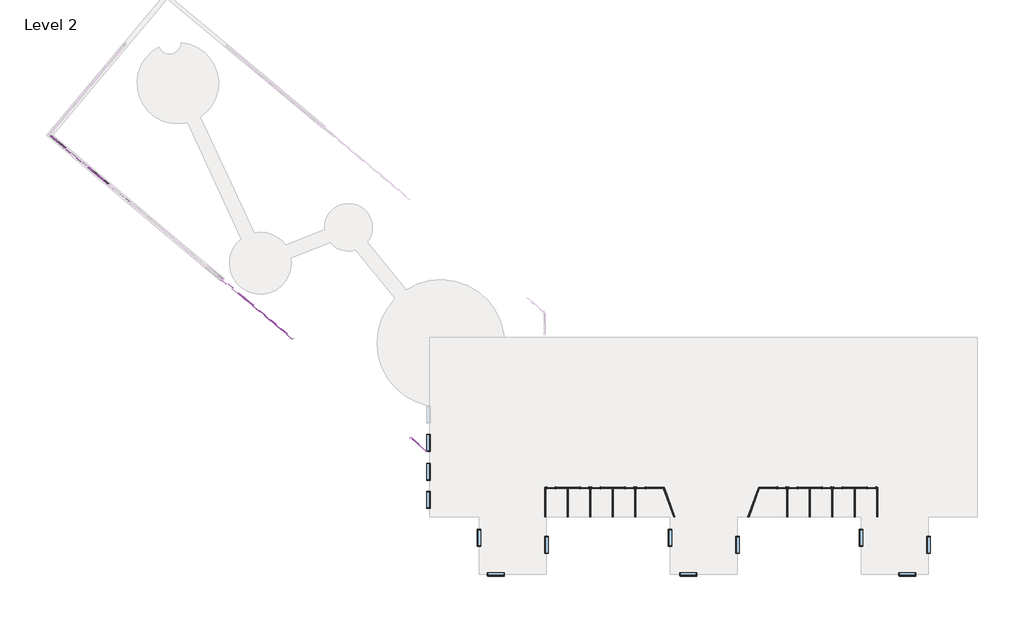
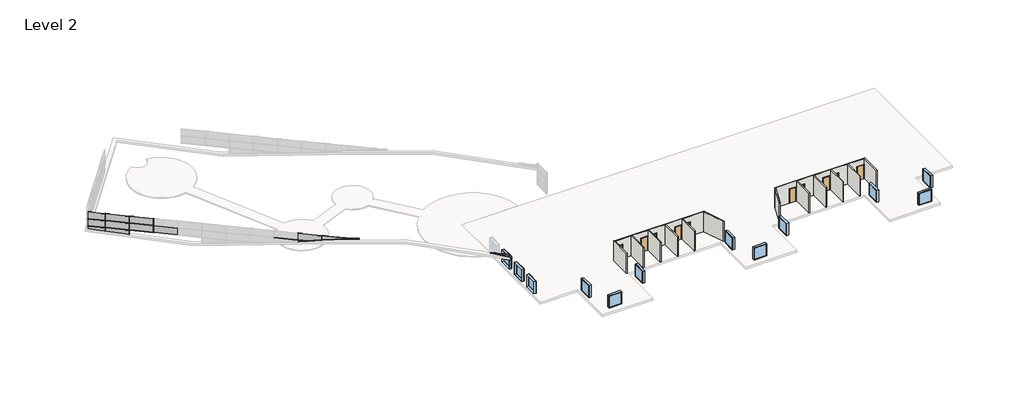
# One storey, part 1 of 4: 23 members, 14 plates, 14 walls, 12 windows, 10 doors.
"""IFC4 building model written with IfcOpenShell, lengths in millimetres."""

from ifc_helpers import new_model, si_unit, frame, origin, place, context, project, spatial, polyline, outline, extrude, faceted_brep, transform, mapped, element, save
from components import door_a1797ceb, door_a3eb833a, member_e6b937b8, member_3e6eb2ff, member_5ef1489a, member_b94ccd9f, member_68f25307, member_2b5b1d27, member_eaba9652, member_8e78e238, member_047e79c2, member_c98aac82, member_66bcd2d2, member_78a116ff, member_fc36493b, member_e5b014c7, member_6226d3c8, member_bbbeaff8, system_panel_glazed_a2c5a472, system_panel_glazed_ccf48815, system_panel_glazed_66757764, system_panel_glazed_3ad8292d, system_panel_glazed_91957de0, system_panel_glazed_6fbe35d1, system_panel_glazed_d7fb52fa, system_panel_glazed_6cc4185f, system_panel_glazed_b09d7682, fixed_6_x_6_52427b03

model = new_model("IFC4")

# Units and contexts
model_context = context("Model", 3, world=origin())
ifc_project = project(units=[si_unit("LENGTHUNIT", "METRE", prefix="MILLI")], contexts=[model_context])

# Site, building, storey
site = spatial("IfcSite", under=ifc_project)
building = spatial("IfcBuilding", under=site)
storey = spatial("IfcBuildingStorey", under=building, Name="Level 2", Elevation=3048.0)

# Doors
placement = place(None, origin())
door_shape = door_a1797ceb(model_context)
element("IfcDoor", 1, ObjectType="Single-Flush : 36\" x 84\"", at=placement, inside=storey, context=model_context, shape_type="MappedRepresentation", body=[
    mapped(door_shape, transform((5098.7613427, -5953.3379393, 3048.0), x_axis=(-1.0, 0.0, 0.0), y_axis=(0.0, -1.0, 0.0), z_axis=(0.0, 0.0, 1.0))),
])
element("IfcDoor", 2, ObjectType="Single-Flush : 36\" x 84\"", at=placement, inside=storey, context=model_context, shape_type="MappedRepresentation", body=[
    mapped(door_shape, transform((221.9613427, -5953.3379393, 3048.0), x_axis=(-1.0, 0.0, 0.0), y_axis=(0.0, -1.0, 0.0), z_axis=(0.0, 0.0, 1.0))),
])
element("IfcDoor", 3, ObjectType="Single-Flush : 36\" x 84\"", at=placement, inside=storey, context=model_context, shape_type="MappedRepresentation", body=[
    mapped(door_shape, transform((-4654.8386573, -5953.3379393, 3048.0), x_axis=(-1.0, 0.0, 0.0), y_axis=(0.0, -1.0, 0.0), z_axis=(0.0, 0.0, 1.0))),
])
element("IfcDoor", 4, ObjectType="Single-Flush : 36\" x 84\"", at=placement, inside=storey, context=model_context, shape_type="MappedRepresentation", body=[
    mapped(door_shape, transform((21607.1738427, -5953.3379393, 3048.0), x_axis=(-1.0, 0.0, 0.0), y_axis=(0.0, -1.0, 0.0), z_axis=(0.0, 0.0, 1.0))),
])
element("IfcDoor", 5, ObjectType="Single-Flush : 36\" x 84\"", at=placement, inside=storey, context=model_context, shape_type="MappedRepresentation", body=[
    mapped(door_shape, transform((26483.9738427, -5953.3379393, 3048.0), x_axis=(-1.0, 0.0, 0.0), y_axis=(0.0, -1.0, 0.0), z_axis=(0.0, 0.0, 1.0))),
])
door_2_shape = door_a3eb833a(model_context)
element("IfcDoor", 6, ObjectType="Single-Flush : 36\" x 84\"", at=placement, inside=storey, context=model_context, shape_type="MappedRepresentation", body=[
    mapped(door_2_shape, transform((3879.5613427, -5953.3379393, 3048.0), x_axis=(1.0, 0.0, 0.0), y_axis=(0.0, 1.0, 0.0), z_axis=(0.0, 0.0, 1.0))),
])
element("IfcDoor", 7, ObjectType="Single-Flush : 36\" x 84\"", at=placement, inside=storey, context=model_context, shape_type="MappedRepresentation", body=[
    mapped(door_2_shape, transform((-997.2386573, -5953.3379393, 3048.0), x_axis=(1.0, 0.0, 0.0), y_axis=(0.0, 1.0, 0.0), z_axis=(0.0, 0.0, 1.0))),
])
element("IfcDoor", 8, ObjectType="Single-Flush : 36\" x 84\"", at=placement, inside=storey, context=model_context, shape_type="MappedRepresentation", body=[
    mapped(door_2_shape, transform((20387.9738427, -5953.3379393, 3048.0), x_axis=(1.0, 0.0, 0.0), y_axis=(0.0, 1.0, 0.0), z_axis=(0.0, 0.0, 1.0))),
])
element("IfcDoor", 9, ObjectType="Single-Flush : 36\" x 84\"", at=placement, inside=storey, context=model_context, shape_type="MappedRepresentation", body=[
    mapped(door_2_shape, transform((25264.7738427, -5953.3379393, 3048.0), x_axis=(1.0, 0.0, 0.0), y_axis=(0.0, 1.0, 0.0), z_axis=(0.0, 0.0, 1.0))),
])
element("IfcDoor", 10, ObjectType="Single-Flush : 36\" x 84\"", at=placement, inside=storey, context=model_context, shape_type="MappedRepresentation", body=[
    mapped(door_2_shape, transform((30141.5738427, -5953.3379393, 3048.0), x_axis=(1.0, 0.0, 0.0), y_axis=(0.0, 1.0, 0.0), z_axis=(0.0, 0.0, 1.0))),
])

# Members
member_shape = member_e6b937b8(model_context)
element("IfcMember", 11, ObjectType="Rectangular Mullion : 1.5\" x 2.5\" rectangular", at=placement, inside=storey, context=model_context, shape_type="MappedRepresentation", body=[
    mapped(member_shape, transform((-38615.91172, 15222.4033343, 6133.5444177), x_axis=(-0.76604444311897, 0.6427876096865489, 0.0), y_axis=(-0.6427876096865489, -0.76604444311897, 0.0), z_axis=(0.0, 0.0, 1.0))),
])
element("IfcMember", 12, ObjectType="Rectangular Mullion : 1.5\" x 2.5\" rectangular", at=placement, inside=storey, context=model_context, shape_type="MappedRepresentation", body=[
    mapped(member_shape, transform((-52625.3324958, 26977.7031403, 5066.7444177), x_axis=(-0.76604444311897, 0.6427876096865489, 0.0), y_axis=(-0.6427876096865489, -0.76604444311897, 0.0), z_axis=(0.0, 0.0, 1.0))),
])
element("IfcMember", 13, ObjectType="Rectangular Mullion : 1.5\" x 2.5\" rectangular", at=placement, inside=storey, context=model_context, shape_type="MappedRepresentation", body=[
    mapped(member_shape, transform((-57295.139421, 30896.1364089, 5066.7444177), x_axis=(-0.76604444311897, 0.6427876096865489, 0.0), y_axis=(-0.6427876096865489, -0.76604444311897, 0.0), z_axis=(0.0, 0.0, 1.0))),
])
element("IfcMember", 14, ObjectType="Rectangular Mullion : 1.5\" x 2.5\" rectangular", at=placement, inside=storey, context=model_context, shape_type="MappedRepresentation", body=[
    mapped(member_shape, transform((-52625.3324958, 26977.7031403, 6133.5444177), x_axis=(-0.76604444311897, 0.6427876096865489, 0.0), y_axis=(-0.6427876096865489, -0.76604444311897, 0.0), z_axis=(0.0, 0.0, 1.0))),
])
element("IfcMember", 15, ObjectType="Rectangular Mullion : 1.5\" x 2.5\" rectangular", at=placement, inside=storey, context=model_context, shape_type="MappedRepresentation", body=[
    mapped(member_shape, transform((-57295.139421, 30896.1364089, 6133.5444177), x_axis=(-0.76604444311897, 0.6427876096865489, 0.0), y_axis=(-0.6427876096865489, -0.76604444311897, 0.0), z_axis=(0.0, 0.0, 1.0))),
])
member_2_shape = member_3e6eb2ff(model_context)
element("IfcMember", 16, ObjectType="Rectangular Mullion : 1.5\" x 2.5\" rectangular", at=placement, inside=storey, context=model_context, shape_type="MappedRepresentation", body=[
    mapped(member_2_shape, transform((-38615.91172, 15222.4033343, 5066.7444177), x_axis=(-0.76604444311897, 0.6427876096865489, 0.0), y_axis=(-0.6427876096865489, -0.76604444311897, 0.0), z_axis=(0.0, 0.0, 1.0))),
])
member_3_shape = member_5ef1489a(model_context)
element("IfcMember", 17, ObjectType="Rectangular Mullion : 1.5\" x 2.5\" rectangular", at=placement, inside=storey, context=model_context, shape_type="MappedRepresentation", body=[
    mapped(member_3_shape, transform((-33946.1047947, 11303.9700657, 6133.5444177), x_axis=(-0.76604444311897, 0.6427876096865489, 0.0), y_axis=(-0.6427876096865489, -0.76604444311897, 0.0), z_axis=(0.0, 0.0, 1.0))),
])
member_4_shape = member_b94ccd9f(model_context)
element("IfcMember", 18, ObjectType="Rectangular Mullion : 1.5\" x 2.5\" rectangular", at=placement, inside=storey, context=model_context, shape_type="MappedRepresentation", body=[
    mapped(member_4_shape, transform((-36281.0082574, 13263.1867, 6133.5444177), x_axis=(-0.76604444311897, 0.6427876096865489, 0.0), y_axis=(-0.6427876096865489, -0.76604444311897, 0.0), z_axis=(0.0, 0.0, 1.0))),
])
member_5_shape = member_68f25307(model_context)
element("IfcMember", 19, ObjectType="Rectangular Mullion : 1.5\" x 2.5\" rectangular", at=placement, inside=storey, context=model_context, shape_type="MappedRepresentation", body=[
    mapped(member_5_shape, transform((-57295.139421, 30896.1364089, 3999.9444177), x_axis=(-0.76604444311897, 0.6427876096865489, 0.0), y_axis=(-0.6427876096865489, -0.76604444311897, 0.0), z_axis=(0.0, 0.0, 1.0))),
])
member_6_shape = member_2b5b1d27(model_context)
element("IfcMember", 20, ObjectType="Rectangular Mullion : 1.5\" x 2.5\" rectangular", at=placement, inside=storey, context=model_context, shape_type="MappedRepresentation", body=[
    mapped(member_6_shape, transform((-18129.5386573, -1967.7047467, 5772.8755681), x_axis=(0.76604444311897, -0.6427876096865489, 0.0), y_axis=(-0.6427876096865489, -0.76604444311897, 0.0), z_axis=(0.0, 0.0, -1.0))),
])
member_7_shape = member_eaba9652(model_context)
element("IfcMember", 21, ObjectType="Rectangular Mullion : 2.5\" x 5\" rectangular", at=placement, inside=storey, context=model_context, shape_type="MappedRepresentation", body=[
    mapped(member_7_shape, transform((-38615.91172, 15222.4033343, 5098.4944177), x_axis=(0.0, 0.0, 1.0), y_axis=(-0.6427876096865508, -0.7660444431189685, 0.0), z_axis=(0.7660444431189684, -0.6427876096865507, 0.0))),
])
element("IfcMember", 22, ObjectType="Rectangular Mullion : 2.5\" x 5\" rectangular", at=placement, inside=storey, context=model_context, shape_type="MappedRepresentation", body=[
    mapped(member_7_shape, transform((-52625.3324958, 26977.7031403, 4031.6944177), x_axis=(0.0, 0.0, 1.0), y_axis=(-0.6427876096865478, -0.766044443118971, 0.0), z_axis=(0.766044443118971, -0.6427876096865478, 0.0))),
])
element("IfcMember", 23, ObjectType="Rectangular Mullion : 2.5\" x 5\" rectangular", at=placement, inside=storey, context=model_context, shape_type="MappedRepresentation", body=[
    mapped(member_7_shape, transform((-52625.3324958, 26977.7031403, 5098.4944177), x_axis=(0.0, 0.0, 1.0), y_axis=(-0.6427876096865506, -0.7660444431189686, 0.0), z_axis=(0.7660444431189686, -0.6427876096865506, 0.0))),
])
member_8_shape = member_8e78e238(model_context)
element("IfcMember", 24, ObjectType="Rectangular Mullion : 2.5\" x 5\" rectangular", at=placement, inside=storey, context=model_context, shape_type="MappedRepresentation", body=[
    mapped(member_8_shape, transform((-57295.139421, 30896.1364089, 4031.6944177), x_axis=(0.0, 0.0, 1.0), y_axis=(-0.6427876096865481, -0.7660444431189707, 0.0), z_axis=(0.7660444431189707, -0.6427876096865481, 0.0))),
])
element("IfcMember", 25, ObjectType="Rectangular Mullion : 2.5\" x 5\" rectangular", at=placement, inside=storey, context=model_context, shape_type="MappedRepresentation", body=[
    mapped(member_8_shape, transform((-57295.139421, 30896.1364089, 5098.4944177), x_axis=(0.0, 0.0, 1.0), y_axis=(-0.6427876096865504, -0.7660444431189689, 0.0), z_axis=(0.7660444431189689, -0.6427876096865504, 0.0))),
])
member_9_shape = member_047e79c2(model_context)
element("IfcMember", 26, ObjectType="Rectangular Mullion : 2.5\" x 5\" rectangular", at=placement, inside=storey, context=model_context, shape_type="MappedRepresentation", body=[
    mapped(member_9_shape, transform((-37671.407373, 14429.8700852, 5098.4944177), x_axis=(0.0, 0.0, 1.0), y_axis=(-0.6427876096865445, -0.7660444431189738, 0.0), z_axis=(0.7660444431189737, -0.6427876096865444, 0.0))),
])
member_10_shape = member_c98aac82(model_context)
element("IfcMember", 27, ObjectType="Rectangular Mullion : 2.5\" x 5\" rectangular", at=placement, inside=storey, context=model_context, shape_type="MappedRepresentation", body=[
    mapped(member_10_shape, transform((-38393.9120711, 15036.1235108, 4891.5614291), x_axis=(0.1641677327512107, -0.13775308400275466, -0.976766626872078), y_axis=(-0.6427876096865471, -0.7660444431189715, 0.0), z_axis=(-0.7482466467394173, 0.6278534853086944, -0.2143057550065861))),
])
member_11_shape = member_66bcd2d2(model_context)
element("IfcMember", 28, ObjectType="Rectangular Mullion : 2.5\" x 5\" rectangular", at=placement, inside=storey, context=model_context, shape_type="MappedRepresentation", body=[
    mapped(member_11_shape, transform((-19936.684019, -451.3297403, 6103.6088271), x_axis=(-0.10635699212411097, 0.08924411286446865, -0.9903149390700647), y_axis=(-0.6427876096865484, -0.7660444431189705, 0.0), z_axis=(-0.7586252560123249, 0.6365621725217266, 0.13883919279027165))),
])
member_12_shape = member_78a116ff(model_context)
element("IfcMember", 29, ObjectType="Rectangular Mullion : 2.5\" x 5\" rectangular", at=placement, inside=storey, context=model_context, shape_type="MappedRepresentation", body=[
    mapped(member_12_shape, transform((-33946.1047947, 11303.9700657, 5953.0602673), x_axis=(0.09691373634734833, -0.0813202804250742, -0.9919650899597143), y_axis=(-0.6427876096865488, -0.7660444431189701, 0.0), z_axis=(-0.7598893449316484, 0.637622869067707, -0.12651189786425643))),
])
member_13_shape = member_fc36493b(model_context)
element("IfcMember", 30, ObjectType="Rectangular Mullion : 2.5\" x 5\" rectangular", at=placement, inside=storey, context=model_context, shape_type="MappedRepresentation", body=[
    mapped(member_13_shape, transform((-36281.0082574, 13263.1867, 5458.7436332), x_axis=(0.12263282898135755, -0.10290116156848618, -0.9871031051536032), y_axis=(-0.642787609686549, -0.76604444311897, 0.0), z_axis=(-0.756164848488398, 0.6344976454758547, -0.16008578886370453))),
])
member_14_shape = member_e5b014c7(model_context)
element("IfcMember", 31, ObjectType="Rectangular Mullion : 2.5\" x 5\" rectangular", at=placement, inside=storey, context=model_context, shape_type="MappedRepresentation", body=[
    mapped(member_14_shape, transform((-38615.91172, 15222.4033343, 4826.4678382), x_axis=(0.16788261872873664, -0.1408702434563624, -0.9756900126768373), y_axis=(-0.6427876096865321, -0.7660444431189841, 0.0), z_axis=(-0.747421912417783, 0.6271614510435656, -0.2191551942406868))),
])
member_15_shape = member_6226d3c8(model_context)
element("IfcMember", 32, ObjectType="Rectangular Mullion : 2.5\" x 5\" rectangular", at=placement, inside=storey, context=model_context, shape_type="MappedRepresentation", body=[
    mapped(member_15_shape, transform((-57295.139421, 30896.1364089, 3322.3575339), x_axis=(-0.058324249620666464, 0.048939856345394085, -0.9970973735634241), y_axis=(-0.6427876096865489, -0.7660444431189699, 0.0), z_axis=(-0.7638209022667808, 0.6409218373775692, 0.07613690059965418))),
])
member_16_shape = member_bbbeaff8(model_context)
element("IfcMember", 33, ObjectType="Rectangular Mullion : 2.5\" x 5\" rectangular", at=placement, inside=storey, context=model_context, shape_type="MappedRepresentation", body=[
    mapped(member_16_shape, transform((-37671.407373, 14429.8700852, 5098.4944177), x_axis=(0.14913559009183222, -0.1251396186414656, -0.9808662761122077), y_axis=(-0.6427876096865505, -0.7660444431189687, 0.0), z_axis=(-0.7513871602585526, 0.6304886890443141, -0.19468268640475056))),
])

# Plates
system_panel_glazed_shape = system_panel_glazed_a2c5a472(model_context)
element("IfcPlate", 34, ObjectType="System Panel : Glazed", at=placement, inside=storey, context=model_context, shape_type="MappedRepresentation", body=[
    mapped(system_panel_glazed_shape, transform((-51457.8807644, 25998.0948231, 4063.4444177), x_axis=(-0.76604444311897, 0.6427876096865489, 0.0), y_axis=(-0.6427876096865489, -0.76604444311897, 0.0), z_axis=(0.0, 0.0, 1.0))),
])
element("IfcPlate", 35, ObjectType="System Panel : Glazed", at=placement, inside=storey, context=model_context, shape_type="MappedRepresentation", body=[
    mapped(system_panel_glazed_shape, transform((-53792.7842271, 27957.3114575, 4063.4444177), x_axis=(-0.76604444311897, 0.6427876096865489, 0.0), y_axis=(-0.6427876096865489, -0.76604444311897, 0.0), z_axis=(0.0, 0.0, 1.0))),
])
element("IfcPlate", 36, ObjectType="System Panel : Glazed", at=placement, inside=storey, context=model_context, shape_type="MappedRepresentation", body=[
    mapped(system_panel_glazed_shape, transform((-53792.7842271, 27957.3114575, 5130.2444177), x_axis=(-0.76604444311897, 0.6427876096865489, 0.0), y_axis=(-0.6427876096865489, -0.76604444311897, 0.0), z_axis=(0.0, 0.0, 1.0))),
])
element("IfcPlate", 37, ObjectType="System Panel : Glazed", at=placement, inside=storey, context=model_context, shape_type="MappedRepresentation", body=[
    mapped(system_panel_glazed_shape, transform((-56127.6876897, 29916.5280918, 4063.4444177), x_axis=(-0.76604444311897, 0.6427876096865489, 0.0), y_axis=(-0.6427876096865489, -0.76604444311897, 0.0), z_axis=(0.0, 0.0, 1.0))),
])
element("IfcPlate", 38, ObjectType="System Panel : Glazed", at=placement, inside=storey, context=model_context, shape_type="MappedRepresentation", body=[
    mapped(system_panel_glazed_shape, transform((-56127.6876897, 29916.5280918, 5130.2444177), x_axis=(-0.76604444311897, 0.6427876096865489, 0.0), y_axis=(-0.6427876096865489, -0.76604444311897, 0.0), z_axis=(0.0, 0.0, 1.0))),
])
system_panel_glazed_2_shape = system_panel_glazed_ccf48815(model_context)
element("IfcPlate", 39, ObjectType="System Panel : Glazed", at=placement, inside=storey, context=model_context, shape_type="MappedRepresentation", body=[
    mapped(system_panel_glazed_2_shape, transform((-58169.5258086, 31629.8337042, 4063.4444177), x_axis=(-0.76604444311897, 0.6427876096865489, 0.0), y_axis=(-0.6427876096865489, -0.76604444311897, 0.0), z_axis=(0.0, 0.0, 1.0))),
])
element("IfcPlate", 40, ObjectType="System Panel : Glazed", at=placement, inside=storey, context=model_context, shape_type="MappedRepresentation", body=[
    mapped(system_panel_glazed_2_shape, transform((-58169.5258086, 31629.8337042, 5130.2444177), x_axis=(-0.76604444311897, 0.6427876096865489, 0.0), y_axis=(-0.6427876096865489, -0.76604444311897, 0.0), z_axis=(0.0, 0.0, 1.0))),
])
system_panel_glazed_3_shape = system_panel_glazed_66757764(model_context)
element("IfcPlate", 41, ObjectType="System Panel : Glazed", at=placement, inside=storey, context=model_context, shape_type="MappedRepresentation", body=[
    mapped(system_panel_glazed_3_shape, transform((-38305.2820327, 14961.7540783, 4895.8289115), x_axis=(-0.76604444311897, 0.6427876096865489, 0.0), y_axis=(-0.6427876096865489, -0.76604444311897, 0.0), z_axis=(0.0, 0.0, 1.0))),
])
system_panel_glazed_4_shape = system_panel_glazed_3ad8292d(model_context)
element("IfcPlate", 42, ObjectType="System Panel : Glazed", at=placement, inside=storey, context=model_context, shape_type="MappedRepresentation", body=[
    mapped(system_panel_glazed_4_shape, transform((-18954.3089293, -1275.6403157, 5842.3380901), x_axis=(-0.76604444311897, 0.6427876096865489, 0.0), y_axis=(-0.6427876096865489, -0.76604444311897, 0.0), z_axis=(0.0, 0.0, 1.0))),
])
system_panel_glazed_5_shape = system_panel_glazed_91957de0(model_context)
element("IfcPlate", 43, ObjectType="System Panel : Glazed", at=placement, inside=storey, context=model_context, shape_type="MappedRepresentation", body=[
    mapped(system_panel_glazed_5_shape, transform((-33589.0223033, 11004.3422789, 6019.5041899), x_axis=(-0.76604444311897, 0.6427876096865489, 0.0), y_axis=(-0.6427876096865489, -0.76604444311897, 0.0), z_axis=(0.0, 0.0, 1.0))),
])
system_panel_glazed_6_shape = system_panel_glazed_6fbe35d1(model_context)
element("IfcPlate", 44, ObjectType="System Panel : Glazed", at=placement, inside=storey, context=model_context, shape_type="MappedRepresentation", body=[
    mapped(system_panel_glazed_6_shape, transform((-35113.5565261, 12283.5783829, 5526.1627649), x_axis=(-0.76604444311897, 0.6427876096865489, 0.0), y_axis=(-0.6427876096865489, -0.76604444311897, 0.0), z_axis=(0.0, 0.0, 1.0))),
])
system_panel_glazed_7_shape = system_panel_glazed_d7fb52fa(model_context)
element("IfcPlate", 45, ObjectType="System Panel : Glazed", at=placement, inside=storey, context=model_context, shape_type="MappedRepresentation", body=[
    mapped(system_panel_glazed_7_shape, transform((-37448.4599887, 14242.7950172, 5130.2444177), x_axis=(-0.76604444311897, 0.6427876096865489, 0.0), y_axis=(-0.6427876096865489, -0.76604444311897, 0.0), z_axis=(0.0, 0.0, 1.0))),
])
system_panel_glazed_8_shape = system_panel_glazed_6cc4185f(model_context)
element("IfcPlate", 46, ObjectType="System Panel : Glazed", at=placement, inside=storey, context=model_context, shape_type="MappedRepresentation", body=[
    mapped(system_panel_glazed_8_shape, transform((-56127.6876897, 29916.5280918, 3154.7561847), x_axis=(-0.76604444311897, 0.6427876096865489, 0.0), y_axis=(-0.6427876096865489, -0.76604444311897, 0.0), z_axis=(0.0, 0.0, 1.0))),
])
system_panel_glazed_9_shape = system_panel_glazed_b09d7682(model_context)
element("IfcPlate", 47, ObjectType="System Panel : Glazed", at=placement, inside=storey, context=model_context, shape_type="MappedRepresentation", body=[
    mapped(system_panel_glazed_9_shape, transform((-58169.5258086, 31629.8337042, 3388.3757175), x_axis=(-0.76604444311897, 0.6427876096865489, 0.0), y_axis=(-0.6427876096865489, -0.76604444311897, 0.0), z_axis=(0.0, 0.0, 1.0))),
])

# Walls
element("IfcWall", 48, ObjectType="Generic - 5\"", at=placement, inside=storey, context=model_context, shape_type="Brep", body=[
    faceted_brep([(-5200.9386573, -9077.5379393, 3048.0), (-5200.9386573, -6016.8379393, 3048.0), (-5200.9386573, -5889.8379393, 3048.0), (-5200.9386573, -5889.8379393, 6096.0), (-5200.9386573, -6016.8379393, 6096.0), (-5200.9386573, -9077.5379393, 6096.0), (-5327.9386573, -9077.5379393, 3048.0), (-5327.9386573, -9077.5379393, 5486.4), (-5327.9386573, -9077.5379393, 6096.0), (-5327.9386573, -5889.8379393, 6096.0), (-5327.9386573, -5889.8379393, 3048.0)], [[[0, 1, 2, 3, 4, 5]], [[6, 7, 8, 9, 10]], [[2, 1, 0, 6, 10]], [[5, 4, 3, 9, 8]], [[3, 2, 10, 9]], [[0, 5, 8, 7, 6]]]),
])
element("IfcWall", 49, ObjectType="Generic - 5\"", at=placement, inside=storey, context=model_context, shape_type="Brep", body=[
    faceted_brep([(-5200.9386573, -6016.8379393, 3048.0), (-5112.0386573, -6016.8379393, 3048.0), (-5112.0386573, -6016.8379393, 5181.6), (-4197.6386573, -6016.8379393, 5181.6), (-4197.6386573, -6016.8379393, 3048.0), (-2889.5386573, -6016.8379393, 3048.0), (-2762.5386573, -6016.8379393, 3048.0), (-1454.4386573, -6016.8379393, 3048.0), (-1454.4386573, -6016.8379393, 5181.6), (-540.0386573, -6016.8379393, 5181.6), (-540.0386573, -6016.8379393, 3048.0), (-451.1386573, -6016.8379393, 3048.0), (-324.1386573, -6016.8379393, 3048.0), (-235.2386573, -6016.8379393, 3048.0), (-235.2386573, -6016.8379393, 5181.6), (679.1613427, -6016.8379393, 5181.6), (679.1613427, -6016.8379393, 3048.0), (1987.2613427, -6016.8379393, 3048.0), (2114.2613427, -6016.8379393, 3048.0), (3422.3613427, -6016.8379393, 3048.0), (3422.3613427, -6016.8379393, 5181.6), (4336.7613427, -6016.8379393, 5181.6), (4336.7613427, -6016.8379393, 3048.0), (4425.6613427, -6016.8379393, 3048.0), (4552.6613427, -6016.8379393, 3048.0), (4641.5613427, -6016.8379393, 3048.0), (4641.5613427, -6016.8379393, 5181.6), (5555.9613427, -6016.8379393, 5181.6), (5555.9613427, -6016.8379393, 3048.0), (7532.462708, -6016.8379393, 3048.0), (7667.6132851, -6016.8379393, 3048.0), (7667.6132851, -6016.8379393, 6096.0), (7532.462708, -6016.8379393, 6096.0), (4552.6613427, -6016.8379393, 6096.0), (4425.6613427, -6016.8379393, 6096.0), (2114.2613427, -6016.8379393, 6096.0), (1987.2613427, -6016.8379393, 6096.0), (-324.1386573, -6016.8379393, 6096.0), (-451.1386573, -6016.8379393, 6096.0), (-2762.5386573, -6016.8379393, 6096.0), (-2889.5386573, -6016.8379393, 6096.0), (-5200.9386573, -6016.8379393, 6096.0), (-5112.0386573, -5889.8379393, 5181.6), (-5112.0386573, -5889.8379393, 3048.0), (-5200.9386573, -5889.8379393, 3048.0), (-5200.9386573, -5889.8379393, 6096.0), (7621.3890653, -5889.8379393, 6096.0), (7621.3890653, -5889.8379393, 3048.0), (5555.9613427, -5889.8379393, 3048.0), (5555.9613427, -5889.8379393, 5181.6), (4641.5613427, -5889.8379393, 5181.6), (4641.5613427, -5889.8379393, 3048.0), (4336.7613427, -5889.8379393, 3048.0), (4336.7613427, -5889.8379393, 5181.6), (3422.3613427, -5889.8379393, 5181.6), (3422.3613427, -5889.8379393, 3048.0), (679.1613427, -5889.8379393, 3048.0), (679.1613427, -5889.8379393, 5181.6), (-235.2386573, -5889.8379393, 5181.6), (-235.2386573, -5889.8379393, 3048.0), (-540.0386573, -5889.8379393, 3048.0), (-540.0386573, -5889.8379393, 5181.6), (-1454.4386573, -5889.8379393, 5181.6), (-1454.4386573, -5889.8379393, 3048.0), (-4197.6386573, -5889.8379393, 3048.0), (-4197.6386573, -5889.8379393, 5181.6)], [[[0, 1, 2, 3, 4, 5, 6, 7, 8, 9, 10, 11, 12, 13, 14, 15, 16, 17, 18, 19, 20, 21, 22, 23, 24, 25, 26, 27, 28, 29, 30, 31, 32, 33, 34, 35, 36, 37, 38, 39, 40, 41]], [[42, 43, 44, 45, 46, 47, 48, 49, 50, 51, 52, 53, 54, 55, 56, 57, 58, 59, 60, 61, 62, 63, 64, 65]], [[25, 24, 23, 22, 52, 51]], [[48, 47, 30, 29, 28]], [[60, 59, 13, 12, 11, 10]], [[44, 43, 1, 0]], [[56, 55, 19, 18, 17, 16]], [[64, 63, 7, 6, 5, 4]], [[41, 40, 39, 38, 37, 36, 35, 34, 33, 32, 31, 46, 45]], [[31, 30, 47, 46]], [[0, 41, 45, 44]], [[26, 25, 51, 50]], [[27, 26, 50, 49]], [[28, 27, 49, 48]], [[53, 52, 22, 21]], [[54, 53, 21, 20]], [[55, 54, 20, 19]], [[61, 60, 10, 9]], [[62, 61, 9, 8]], [[63, 62, 8, 7]], [[14, 13, 59, 58]], [[15, 14, 58, 57]], [[16, 15, 57, 56]], [[2, 1, 43, 42]], [[3, 2, 42, 65]], [[4, 3, 65, 64]]]),
])
element("IfcWall", 50, ObjectType="Generic - 5\"", at=placement, inside=storey, context=model_context, shape_type="SweptSolid", body=[
    extrude(outline(polyline([(8646.466404, -9077.5379393), (7532.462708, -6016.8379393), (7667.6132851, -6016.8379393), (8781.6169811, -9077.5379393), (8646.466404, -9077.5379393)])), frame((0.0, 0.0, 3048.0), z_axis=(0.0, 0.0, 1.0), x_axis=(1.0, 0.0, 0.0)), (0.0, 0.0, 1.0), 3048.0),
])
element("IfcWall", 51, ObjectType="Generic - 5\"", at=placement, inside=storey, context=model_context, shape_type="Brep", body=[
    faceted_brep([(30814.6738427, -9077.5379393, 3048.0), (30814.6738427, -5889.8379393, 3048.0), (30814.6738427, -5889.8379393, 6096.0), (30814.6738427, -9077.5379393, 6096.0), (30814.6738427, -9077.5379393, 5486.4), (30687.6738427, -9077.5379393, 3048.0), (30687.6738427, -9077.5379393, 6096.0), (30687.6738427, -6016.8379393, 6096.0), (30687.6738427, -5889.8379393, 6096.0), (30687.6738427, -5889.8379393, 3048.0), (30687.6738427, -6016.8379393, 3048.0)], [[[0, 1, 2, 3, 4]], [[5, 6, 7, 8, 9, 10]], [[1, 0, 5, 10, 9]], [[3, 2, 8, 7, 6]], [[2, 1, 9, 8]], [[0, 4, 3, 6, 5]]]),
])
element("IfcWall", 52, ObjectType="Generic - 5\"", at=placement, inside=storey, context=model_context, shape_type="Brep", body=[
    faceted_brep([(30687.6738427, -5889.8379393, 3048.0), (30598.7738427, -5889.8379393, 3048.0), (30598.7738427, -5889.8379393, 5181.6), (29684.3738427, -5889.8379393, 5181.6), (29684.3738427, -5889.8379393, 3048.0), (26941.1738427, -5889.8379393, 3048.0), (26941.1738427, -5889.8379393, 5181.6), (26026.7738427, -5889.8379393, 5181.6), (26026.7738427, -5889.8379393, 3048.0), (25721.9738427, -5889.8379393, 3048.0), (25721.9738427, -5889.8379393, 5181.6), (24807.5738427, -5889.8379393, 5181.6), (24807.5738427, -5889.8379393, 3048.0), (22064.3738427, -5889.8379393, 3048.0), (22064.3738427, -5889.8379393, 5181.6), (21149.9738427, -5889.8379393, 5181.6), (21149.9738427, -5889.8379393, 3048.0), (20845.1738427, -5889.8379393, 3048.0), (20845.1738427, -5889.8379393, 5181.6), (19930.7738427, -5889.8379393, 5181.6), (19930.7738427, -5889.8379393, 3048.0), (17865.34612, -5889.8379393, 3048.0), (17865.34612, -5889.8379393, 6096.0), (30687.6738427, -5889.8379393, 6096.0), (30598.7738427, -6016.8379393, 5181.6), (30598.7738427, -6016.8379393, 3048.0), (30687.6738427, -6016.8379393, 3048.0), (30687.6738427, -6016.8379393, 6096.0), (28376.2738427, -6016.8379393, 6096.0), (28249.2738427, -6016.8379393, 6096.0), (25937.8738427, -6016.8379393, 6096.0), (25810.8738427, -6016.8379393, 6096.0), (23499.4738427, -6016.8379393, 6096.0), (23372.4738427, -6016.8379393, 6096.0), (21061.0738427, -6016.8379393, 6096.0), (20934.0738427, -6016.8379393, 6096.0), (17954.2724774, -6016.8379393, 6096.0), (17819.1219003, -6016.8379393, 6096.0), (17819.1219003, -6016.8379393, 3048.0), (17954.2724774, -6016.8379393, 3048.0), (19930.7738427, -6016.8379393, 3048.0), (19930.7738427, -6016.8379393, 5181.6), (20845.1738427, -6016.8379393, 5181.6), (20845.1738427, -6016.8379393, 3048.0), (20934.0738427, -6016.8379393, 3048.0), (21061.0738427, -6016.8379393, 3048.0), (21149.9738427, -6016.8379393, 3048.0), (21149.9738427, -6016.8379393, 5181.6), (22064.3738427, -6016.8379393, 5181.6), (22064.3738427, -6016.8379393, 3048.0), (23372.4738427, -6016.8379393, 3048.0), (23499.4738427, -6016.8379393, 3048.0), (24807.5738427, -6016.8379393, 3048.0), (24807.5738427, -6016.8379393, 5181.6), (25721.9738427, -6016.8379393, 5181.6), (25721.9738427, -6016.8379393, 3048.0), (25810.8738427, -6016.8379393, 3048.0), (25937.8738427, -6016.8379393, 3048.0), (26026.7738427, -6016.8379393, 3048.0), (26026.7738427, -6016.8379393, 5181.6), (26941.1738427, -6016.8379393, 5181.6), (26941.1738427, -6016.8379393, 3048.0), (28249.2738427, -6016.8379393, 3048.0), (28376.2738427, -6016.8379393, 3048.0), (29684.3738427, -6016.8379393, 3048.0), (29684.3738427, -6016.8379393, 5181.6)], [[[0, 1, 2, 3, 4, 5, 6, 7, 8, 9, 10, 11, 12, 13, 14, 15, 16, 17, 18, 19, 20, 21, 22, 23]], [[24, 25, 26, 27, 28, 29, 30, 31, 32, 33, 34, 35, 36, 37, 38, 39, 40, 41, 42, 43, 44, 45, 46, 47, 48, 49, 50, 51, 52, 53, 54, 55, 56, 57, 58, 59, 60, 61, 62, 63, 64, 65]], [[17, 16, 46, 45, 44, 43]], [[40, 39, 38, 21, 20]], [[58, 57, 56, 55, 9, 8]], [[26, 25, 1, 0]], [[52, 51, 50, 49, 13, 12]], [[64, 63, 62, 61, 5, 4]], [[23, 22, 37, 36, 35, 34, 33, 32, 31, 30, 29, 28, 27]], [[22, 21, 38, 37]], [[0, 23, 27, 26]], [[18, 17, 43, 42]], [[19, 18, 42, 41]], [[20, 19, 41, 40]], [[47, 46, 16, 15]], [[48, 47, 15, 14]], [[49, 48, 14, 13]], [[59, 58, 8, 7]], [[60, 59, 7, 6]], [[61, 60, 6, 5]], [[10, 9, 55, 54]], [[11, 10, 54, 53]], [[12, 11, 53, 52]], [[2, 1, 25, 24]], [[3, 2, 24, 65]], [[4, 3, 65, 64]]]),
])
element("IfcWall", 53, ObjectType="Generic - 5\"", at=placement, inside=storey, context=model_context, shape_type="SweptSolid", body=[
    extrude(outline(polyline([(16705.1182043, -9077.5379393), (17819.1219003, -6016.8379393), (17954.2724774, -6016.8379393), (16840.2687814, -9077.5379393), (16705.1182043, -9077.5379393)])), frame((0.0, 0.0, 3048.0), z_axis=(0.0, 0.0, 1.0), x_axis=(1.0, 0.0, 0.0)), (0.0, 0.0, 1.0), 3048.0),
])
element("IfcWall", 54, ObjectType="Generic - 5\"", at=placement, inside=storey, context=model_context, shape_type="SweptSolid", body=[
    extrude(outline(polyline([(-2889.5386573, -9077.5379393), (-2889.5386573, -6016.8379393), (-2762.5386573, -6016.8379393), (-2762.5386573, -9077.5379393), (-2889.5386573, -9077.5379393)])), frame((0.0, 0.0, 3048.0), z_axis=(0.0, 0.0, 1.0), x_axis=(1.0, 0.0, 0.0)), (0.0, 0.0, 1.0), 3048.0),
])
element("IfcWall", 55, ObjectType="Generic - 5\"", at=placement, inside=storey, context=model_context, shape_type="SweptSolid", body=[
    extrude(outline(polyline([(-451.1386573, -9077.5379393), (-451.1386573, -6016.8379393), (-324.1386573, -6016.8379393), (-324.1386573, -9077.5379393), (-451.1386573, -9077.5379393)])), frame((0.0, 0.0, 3048.0), z_axis=(0.0, 0.0, 1.0), x_axis=(1.0, 0.0, 0.0)), (0.0, 0.0, 1.0), 3048.0),
])
element("IfcWall", 56, ObjectType="Generic - 5\"", at=placement, inside=storey, context=model_context, shape_type="SweptSolid", body=[
    extrude(outline(polyline([(1987.2613427, -9077.5379393), (1987.2613427, -6016.8379393), (2114.2613427, -6016.8379393), (2114.2613427, -9077.5379393), (1987.2613427, -9077.5379393)])), frame((0.0, 0.0, 3048.0), z_axis=(0.0, 0.0, 1.0), x_axis=(1.0, 0.0, 0.0)), (0.0, 0.0, 1.0), 3048.0),
])
element("IfcWall", 57, ObjectType="Generic - 5\"", at=placement, inside=storey, context=model_context, shape_type="SweptSolid", body=[
    extrude(outline(polyline([(4425.6613427, -9077.5379393), (4425.6613427, -6016.8379393), (4552.6613427, -6016.8379393), (4552.6613427, -9077.5379393), (4425.6613427, -9077.5379393)])), frame((0.0, 0.0, 3048.0), z_axis=(0.0, 0.0, 1.0), x_axis=(1.0, 0.0, 0.0)), (0.0, 0.0, 1.0), 3048.0),
])
element("IfcWall", 58, ObjectType="Generic - 5\"", at=placement, inside=storey, context=model_context, shape_type="SweptSolid", body=[
    extrude(outline(polyline([(28249.2738427, -9077.5379393), (28249.2738427, -6016.8379393), (28376.2738427, -6016.8379393), (28376.2738427, -9077.5379393), (28249.2738427, -9077.5379393)])), frame((0.0, 0.0, 3048.0), z_axis=(0.0, 0.0, 1.0), x_axis=(1.0, 0.0, 0.0)), (0.0, 0.0, 1.0), 3048.0),
])
element("IfcWall", 59, ObjectType="Generic - 5\"", at=placement, inside=storey, context=model_context, shape_type="SweptSolid", body=[
    extrude(outline(polyline([(25810.8738427, -9077.5379393), (25810.8738427, -6016.8379393), (25937.8738427, -6016.8379393), (25937.8738427, -9077.5379393), (25810.8738427, -9077.5379393)])), frame((0.0, 0.0, 3048.0), z_axis=(0.0, 0.0, 1.0), x_axis=(1.0, 0.0, 0.0)), (0.0, 0.0, 1.0), 3048.0),
])
element("IfcWall", 60, ObjectType="Generic - 5\"", at=placement, inside=storey, context=model_context, shape_type="SweptSolid", body=[
    extrude(outline(polyline([(23372.4738427, -9077.5379393), (23372.4738427, -6016.8379393), (23499.4738427, -6016.8379393), (23499.4738427, -9077.5379393), (23372.4738427, -9077.5379393)])), frame((0.0, 0.0, 3048.0), z_axis=(0.0, 0.0, 1.0), x_axis=(1.0, 0.0, 0.0)), (0.0, 0.0, 1.0), 3048.0),
])
element("IfcWall", 61, ObjectType="Generic - 5\"", at=placement, inside=storey, context=model_context, shape_type="SweptSolid", body=[
    extrude(outline(polyline([(20934.0738427, -9077.5379393), (20934.0738427, -6016.8379393), (21061.0738427, -6016.8379393), (21061.0738427, -9077.5379393), (20934.0738427, -9077.5379393)])), frame((0.0, 0.0, 3048.0), z_axis=(0.0, 0.0, 1.0), x_axis=(1.0, 0.0, 0.0)), (0.0, 0.0, 1.0), 3048.0),
])

# Windows
fixed_6_x_6_shape = fixed_6_x_6_52427b03(model_context)
element("IfcWindow", 62, ObjectType="Fixed : 6' x 6'", at=placement, inside=storey, context=model_context, shape_type="MappedRepresentation", body=[
    mapped(fixed_6_x_6_shape, transform((-5151.7261573, -12112.1448697, 3048.0), x_axis=(0.0, 1.0, 0.0), y_axis=(-1.0, 0.0, 0.0), z_axis=(0.0, 0.0, 1.0))),
])
element("IfcWindow", 63, ObjectType="Fixed : 6' x 6'", at=placement, inside=storey, context=model_context, shape_type="MappedRepresentation", body=[
    mapped(fixed_6_x_6_shape, transform((-17953.3261573, -7285.2504393, 2960.8335849), x_axis=(0.0, -1.0, 0.0), y_axis=(1.0, 0.0, 0.0), z_axis=(0.0, 0.0, 1.0))),
])
element("IfcWindow", 64, ObjectType="Fixed : 6' x 6'", at=placement, inside=storey, context=model_context, shape_type="MappedRepresentation", body=[
    mapped(fixed_6_x_6_shape, transform((-17953.3261573, -4237.2504393, 2960.8335849), x_axis=(0.0, -1.0, 0.0), y_axis=(1.0, 0.0, 0.0), z_axis=(0.0, 0.0, 1.0))),
])
element("IfcWindow", 65, ObjectType="Fixed : 6' x 6'", at=placement, inside=storey, context=model_context, shape_type="MappedRepresentation", body=[
    mapped(fixed_6_x_6_shape, transform((-12466.9261573, -11349.2504393, 2960.8335849), x_axis=(0.0, 1.0, 0.0), y_axis=(-1.0, 0.0, 0.0), z_axis=(0.0, 0.0, 1.0))),
])
element("IfcWindow", 66, ObjectType="Fixed : 6' x 6'", at=placement, inside=storey, context=model_context, shape_type="MappedRepresentation", body=[
    mapped(fixed_6_x_6_shape, transform((-10676.2261573, -15349.7504393, 2960.8335849), x_axis=(-1.0, 0.0, 0.0), y_axis=(0.0, -1.0, 0.0), z_axis=(0.0, 0.0, 1.0))),
])
element("IfcWindow", 67, ObjectType="Fixed : 6' x 6'", at=placement, inside=storey, context=model_context, shape_type="MappedRepresentation", body=[
    mapped(fixed_6_x_6_shape, transform((15574.6738427, -12112.1448697, 3048.0), x_axis=(0.0, 1.0, 0.0), y_axis=(-1.0, 0.0, 0.0), z_axis=(0.0, 0.0, 1.0))),
])
element("IfcWindow", 68, ObjectType="Fixed : 6' x 6'", at=placement, inside=storey, context=model_context, shape_type="MappedRepresentation", body=[
    mapped(fixed_6_x_6_shape, transform((8259.4738427, -11349.2504393, 2960.8335849), x_axis=(0.0, 1.0, 0.0), y_axis=(-1.0, 0.0, 0.0), z_axis=(0.0, 0.0, 1.0))),
])
element("IfcWindow", 69, ObjectType="Fixed : 6' x 6'", at=placement, inside=storey, context=model_context, shape_type="MappedRepresentation", body=[
    mapped(fixed_6_x_6_shape, transform((10202.5738427, -15349.7504393, 2960.8335849), x_axis=(-1.0, 0.0, 0.0), y_axis=(0.0, -1.0, 0.0), z_axis=(0.0, 0.0, 1.0))),
])
element("IfcWindow", 70, ObjectType="Fixed : 6' x 6'", at=placement, inside=storey, context=model_context, shape_type="MappedRepresentation", body=[
    mapped(fixed_6_x_6_shape, transform((36301.0738427, -12112.1448697, 3048.0), x_axis=(0.0, 1.0, 0.0), y_axis=(-1.0, 0.0, 0.0), z_axis=(0.0, 0.0, 1.0))),
])
element("IfcWindow", 71, ObjectType="Fixed : 6' x 6'", at=placement, inside=storey, context=model_context, shape_type="MappedRepresentation", body=[
    mapped(fixed_6_x_6_shape, transform((28985.8738427, -11349.2504393, 2960.8335849), x_axis=(0.0, 1.0, 0.0), y_axis=(-1.0, 0.0, 0.0), z_axis=(0.0, 0.0, 1.0))),
])
element("IfcWindow", 72, ObjectType="Fixed : 6' x 6'", at=placement, inside=storey, context=model_context, shape_type="MappedRepresentation", body=[
    mapped(fixed_6_x_6_shape, transform((33976.9738427, -15349.7504393, 2960.8335849), x_axis=(-1.0, 0.0, 0.0), y_axis=(0.0, -1.0, 0.0), z_axis=(0.0, 0.0, 1.0))),
])
element("IfcWindow", 73, ObjectType="Fixed : 6' x 6'", at=placement, inside=storey, context=model_context, shape_type="MappedRepresentation", body=[
    mapped(fixed_6_x_6_shape, transform((-17953.3261573, -1086.0629393, 2960.8335849), x_axis=(0.0, -1.0, 0.0), y_axis=(1.0, 0.0, 0.0), z_axis=(0.0, 0.0, 1.0))),
])

save(model, "model.ifc")
